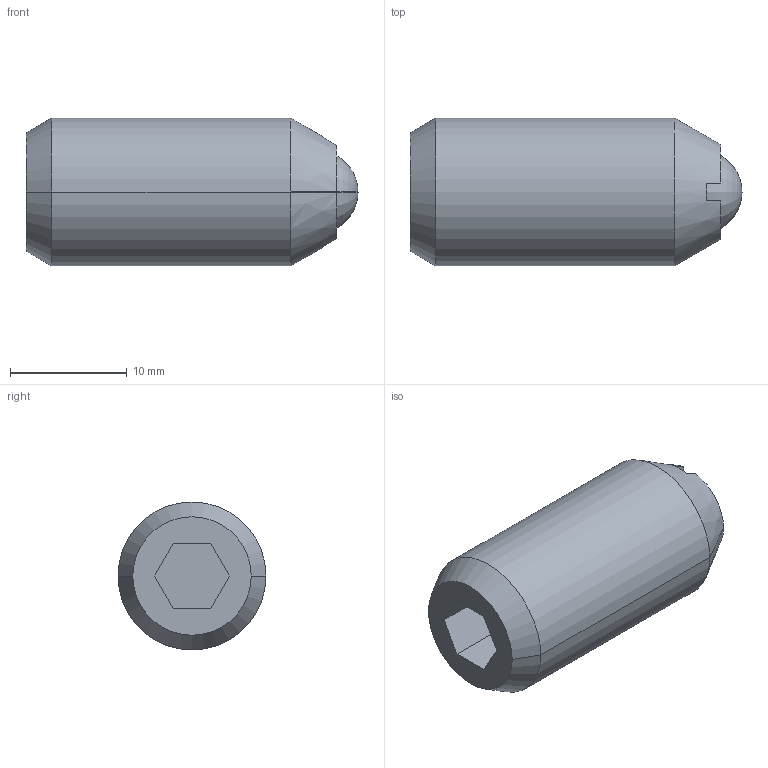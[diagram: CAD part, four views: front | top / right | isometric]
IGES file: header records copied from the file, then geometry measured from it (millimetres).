
Start section:  PTC IGES file: phb60-3D.igs
Global section: file name: phb60-3D.igs; native system: Pro/ENGINEER by Parametric Technology Corporation; preprocessor: 2002350; author: chant; organization: Unknown; date: 061026.084833; units: inch
Bounding box: 28.5 x 12.7 x 12.7 mm (x, y, z)
Surface area: 1614.8 mm2 (no closed solid volume)
Topology: 0 solids, 0 shells, 27 faces, 191 edges, 241 vertices
Faces by surface type: bspline 15, revolution 12
